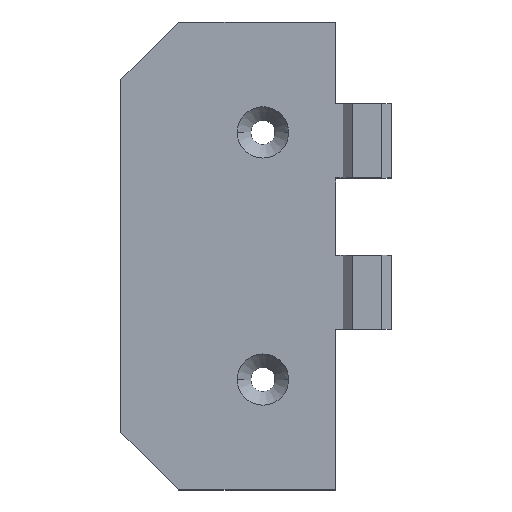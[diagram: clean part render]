
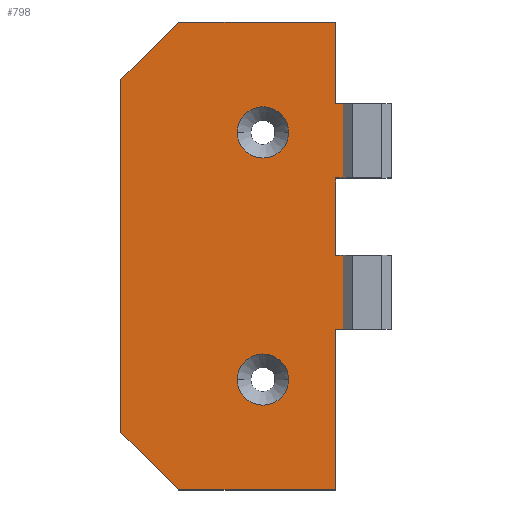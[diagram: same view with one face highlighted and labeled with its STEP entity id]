
A CAD part, top view. The second image highlights one B-rep face of the part: STEP entity #798.
In plain terms, the highlighted planar face has unit normal (0, 0, 1).
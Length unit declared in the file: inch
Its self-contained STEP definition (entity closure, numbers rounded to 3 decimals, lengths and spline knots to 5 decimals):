
#61=CARTESIAN_POINT('',(0.92,0.715,0.11));
#62=DIRECTION('',(0.,0.,1.));
#63=DIRECTION('',(-1.,0.,0.));
#64=AXIS2_PLACEMENT_3D('',#61,#62,#63);
#79=DIRECTION('',(-0.707,-0.707,0.));
#80=VECTOR('',#79,0.53033);
#81=CARTESIAN_POINT('',(0.375,3.03,0.11));
#82=LINE('',#81,#80);
#83=DIRECTION('',(0.,-1.,0.));
#84=VECTOR('',#83,0.53);
#85=CARTESIAN_POINT('',(1.39,3.03,0.11));
#86=LINE('',#85,#84);
#87=DIRECTION('',(-1.,0.,0.));
#88=VECTOR('',#87,0.05);
#89=CARTESIAN_POINT('',(1.44,2.5,0.11));
#90=LINE('',#89,#88);
#91=DIRECTION('',(0.,-1.,0.));
#92=VECTOR('',#91,0.48);
#93=CARTESIAN_POINT('',(1.44,2.5,0.11));
#94=LINE('',#93,#92);
#95=DIRECTION('',(-1.,0.,0.));
#96=VECTOR('',#95,0.05);
#97=CARTESIAN_POINT('',(1.44,2.02,0.11));
#98=LINE('',#97,#96);
#99=DIRECTION('',(0.,-1.,0.));
#100=VECTOR('',#99,0.5);
#101=CARTESIAN_POINT('',(1.39,2.02,0.11));
#102=LINE('',#101,#100);
#103=DIRECTION('',(-1.,0.,0.));
#104=VECTOR('',#103,0.05);
#105=CARTESIAN_POINT('',(1.44,1.52,0.11));
#106=LINE('',#105,#104);
#107=DIRECTION('',(0.,-1.,0.));
#108=VECTOR('',#107,0.48);
#109=CARTESIAN_POINT('',(1.44,1.52,0.11));
#110=LINE('',#109,#108);
#111=DIRECTION('',(-1.,0.,0.));
#112=VECTOR('',#111,0.05);
#113=CARTESIAN_POINT('',(1.44,1.04,0.11));
#114=LINE('',#113,#112);
#115=DIRECTION('',(0.,1.,0.));
#116=VECTOR('',#115,1.04);
#117=CARTESIAN_POINT('',(1.39,0.,0.11));
#118=LINE('',#117,#116);
#119=DIRECTION('',(0.707,-0.707,0.));
#120=VECTOR('',#119,0.53033);
#121=CARTESIAN_POINT('',(0.,0.375,0.11));
#122=LINE('',#121,#120);
#123=CARTESIAN_POINT('',(0.92,0.715,0.11));
#124=DIRECTION('',(0.,0.,1.));
#125=DIRECTION('',(1.,0.,0.));
#126=AXIS2_PLACEMENT_3D('',#123,#124,#125);
#133=CARTESIAN_POINT('',(0.92,2.315,0.11));
#134=DIRECTION('',(0.,0.,1.));
#135=DIRECTION('',(1.,0.,0.));
#136=AXIS2_PLACEMENT_3D('',#133,#134,#135);
#143=CARTESIAN_POINT('',(0.92,2.315,0.11));
#144=DIRECTION('',(0.,0.,1.));
#145=DIRECTION('',(-1.,0.,0.));
#146=AXIS2_PLACEMENT_3D('',#143,#144,#145);
#177=DIRECTION('',(1.,0.,0.));
#178=VECTOR('',#177,1.015);
#179=CARTESIAN_POINT('',(0.375,3.03,0.11));
#180=LINE('',#179,#178);
#489=DIRECTION('',(1.,0.,0.));
#490=VECTOR('',#489,1.015);
#491=CARTESIAN_POINT('',(0.375,0.,0.11));
#492=LINE('',#491,#490);
#501=DIRECTION('',(0.,-1.,0.));
#502=VECTOR('',#501,2.28);
#503=CARTESIAN_POINT('',(0.,2.655,0.11));
#504=LINE('',#503,#502);
#517=CARTESIAN_POINT('',(1.086,2.315,0.11));
#518=CARTESIAN_POINT('',(0.754,2.315,0.11));
#519=VERTEX_POINT('',#517);
#520=VERTEX_POINT('',#518);
#525=CARTESIAN_POINT('',(1.086,0.715,0.11));
#526=CARTESIAN_POINT('',(0.754,0.715,0.11));
#527=VERTEX_POINT('',#525);
#528=VERTEX_POINT('',#526);
#601=CARTESIAN_POINT('',(1.39,0.,0.11));
#602=VERTEX_POINT('',#601);
#603=CARTESIAN_POINT('',(1.39,3.03,0.11));
#604=VERTEX_POINT('',#603);
#605=CARTESIAN_POINT('',(1.39,2.5,0.11));
#606=VERTEX_POINT('',#605);
#607=CARTESIAN_POINT('',(1.44,2.5,0.11));
#608=VERTEX_POINT('',#607);
#609=CARTESIAN_POINT('',(1.44,2.02,0.11));
#610=CARTESIAN_POINT('',(1.39,2.02,0.11));
#611=VERTEX_POINT('',#609);
#612=VERTEX_POINT('',#610);
#613=CARTESIAN_POINT('',(1.39,1.52,0.11));
#614=VERTEX_POINT('',#613);
#615=CARTESIAN_POINT('',(1.44,1.52,0.11));
#616=VERTEX_POINT('',#615);
#617=CARTESIAN_POINT('',(1.44,1.04,0.11));
#618=CARTESIAN_POINT('',(1.39,1.04,0.11));
#619=VERTEX_POINT('',#617);
#620=VERTEX_POINT('',#618);
#649=CARTESIAN_POINT('',(0.375,3.03,0.11));
#650=VERTEX_POINT('',#649);
#651=CARTESIAN_POINT('',(0.,2.655,0.11));
#652=VERTEX_POINT('',#651);
#657=CARTESIAN_POINT('',(0.,0.375,0.11));
#658=VERTEX_POINT('',#657);
#659=CARTESIAN_POINT('',(0.375,0.,0.11));
#660=VERTEX_POINT('',#659);
#752=CARTESIAN_POINT('',(1.44,3.03,0.11));
#753=DIRECTION('',(0.,0.,-1.));
#754=DIRECTION('',(-1.,0.,0.));
#755=AXIS2_PLACEMENT_3D('',#752,#753,#754);
#756=PLANE('',#755);
#758=ORIENTED_EDGE('',*,*,#757,.F.);
#760=ORIENTED_EDGE('',*,*,#759,.T.);
#762=ORIENTED_EDGE('',*,*,#761,.T.);
#764=ORIENTED_EDGE('',*,*,#763,.F.);
#766=ORIENTED_EDGE('',*,*,#765,.T.);
#768=ORIENTED_EDGE('',*,*,#767,.T.);
#770=ORIENTED_EDGE('',*,*,#769,.T.);
#772=ORIENTED_EDGE('',*,*,#771,.F.);
#774=ORIENTED_EDGE('',*,*,#773,.T.);
#776=ORIENTED_EDGE('',*,*,#775,.T.);
#778=ORIENTED_EDGE('',*,*,#777,.F.);
#780=ORIENTED_EDGE('',*,*,#779,.F.);
#782=ORIENTED_EDGE('',*,*,#781,.F.);
#784=ORIENTED_EDGE('',*,*,#783,.F.);
#785=EDGE_LOOP('',(#758,#760,#762,#764,#766,#768,#770,#772,#774,#776,#778,#780,
#782,#784));
#786=FACE_OUTER_BOUND('',#785,.F.);
#788=ORIENTED_EDGE('',*,*,#787,.T.);
#790=ORIENTED_EDGE('',*,*,#789,.T.);
#791=EDGE_LOOP('',(#788,#790));
#792=FACE_BOUND('',#791,.F.);
#794=ORIENTED_EDGE('',*,*,#793,.T.);
#795=ORIENTED_EDGE('',*,*,#742,.T.);
#796=EDGE_LOOP('',(#794,#795));
#797=FACE_BOUND('',#796,.F.);
#798=ADVANCED_FACE('',(#786,#792,#797),#756,.F.);
#65=CIRCLE('',#64,0.166);
#127=CIRCLE('',#126,0.166);
#137=CIRCLE('',#136,0.166);
#147=CIRCLE('',#146,0.166);
#742=EDGE_CURVE('',#528,#527,#65,.T.);
#757=EDGE_CURVE('',#650,#652,#82,.T.);
#759=EDGE_CURVE('',#650,#604,#180,.T.);
#761=EDGE_CURVE('',#604,#606,#86,.T.);
#763=EDGE_CURVE('',#608,#606,#90,.T.);
#765=EDGE_CURVE('',#608,#611,#94,.T.);
#767=EDGE_CURVE('',#611,#612,#98,.T.);
#769=EDGE_CURVE('',#612,#614,#102,.T.);
#771=EDGE_CURVE('',#616,#614,#106,.T.);
#773=EDGE_CURVE('',#616,#619,#110,.T.);
#775=EDGE_CURVE('',#619,#620,#114,.T.);
#777=EDGE_CURVE('',#602,#620,#118,.T.);
#779=EDGE_CURVE('',#660,#602,#492,.T.);
#781=EDGE_CURVE('',#658,#660,#122,.T.);
#783=EDGE_CURVE('',#652,#658,#504,.T.);
#787=EDGE_CURVE('',#519,#520,#137,.T.);
#789=EDGE_CURVE('',#520,#519,#147,.T.);
#793=EDGE_CURVE('',#527,#528,#127,.T.);
